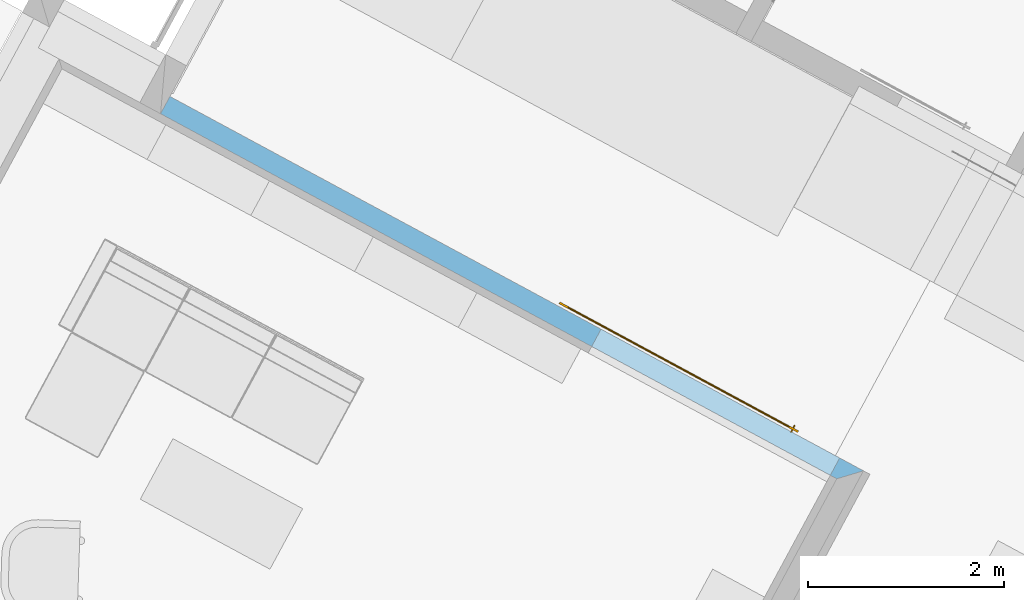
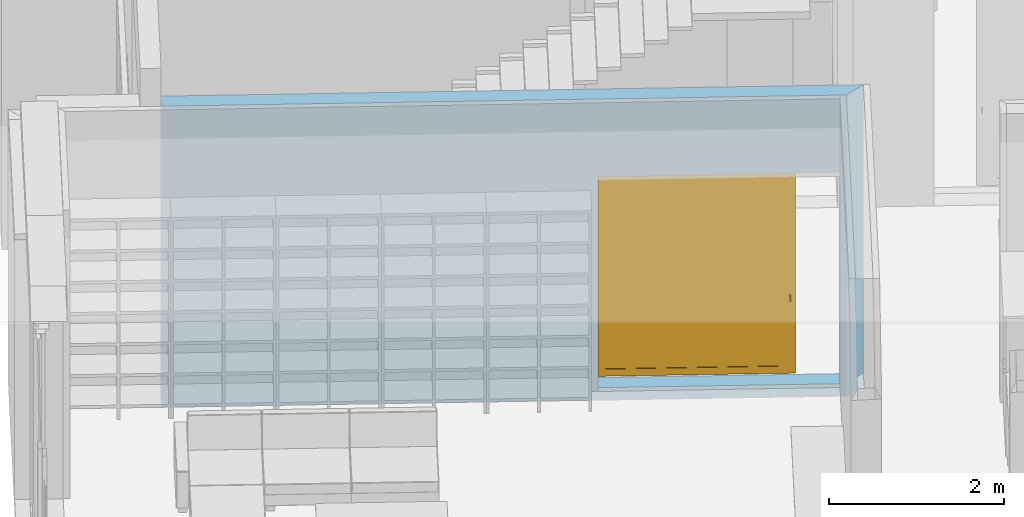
# One storey, part 5 of 36: 1 door, 1 opening, plus 1 element that does not belong to this part.
"""IFC2X3 building model written with IfcOpenShell, lengths in metres."""

from ifc_helpers import new_model, entity, si_unit, converted_unit, derived_unit, money_unit, direction, frame, origin_with_axes, origin_2d_with_axis, place, context, subcontext, project, spatial, polyline, rectangle, outline, extrude, faceted_brep, material, layer, layer_set, layer_usage, type_object, element, fill, save


model = new_model("IFC2X3")

# Units and contexts
model_context = context("Model", 3, precision=1e-05, world=origin_with_axes(), true_north=direction((0.0, 1.0)))
body_context = subcontext(model_context, "Body", "Model", "MODEL_VIEW")
ifc_project = project(units=[si_unit("LENGTHUNIT", "METRE"), si_unit("AREAUNIT", "SQUARE_METRE"), si_unit("VOLUMEUNIT", "CUBIC_METRE"), converted_unit("PLANEANGLEUNIT", "DEGREE", entity("IfcPlaneAngleMeasure", 0.0174532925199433), si_unit("PLANEANGLEUNIT", "RADIAN"), dimensions=[0, 0, 0, 0, 0, 0, 0]), money_unit("EUR"), converted_unit("TIMEUNIT", "Year", entity("IfcTimeMeasure", 31556926.0), si_unit("TIMEUNIT", "SECOND"), dimensions=[0, 0, 1, 0, 0, 0, 0]), si_unit("MASSUNIT", "GRAM", prefix="KILO"), si_unit("THERMODYNAMICTEMPERATUREUNIT", "DEGREE_CELSIUS"), si_unit("LUMINOUSINTENSITYUNIT", "LUMEN"), si_unit("ENERGYUNIT", "JOULE", prefix="MEGA"), derived_unit("THERMALCONDUCTANCEUNIT", [(si_unit("POWERUNIT", "WATT"), 1), (si_unit("LENGTHUNIT", "METRE"), -1), (si_unit("THERMODYNAMICTEMPERATUREUNIT", "KELVIN"), -1)]), derived_unit("SPECIFICHEATCAPACITYUNIT", [(si_unit("ENERGYUNIT", "JOULE"), 1), (si_unit("MASSUNIT", "GRAM", prefix="KILO"), -1), (si_unit("THERMODYNAMICTEMPERATUREUNIT", "KELVIN"), -1)]), derived_unit("MASSDENSITYUNIT", [(si_unit("MASSUNIT", "GRAM", prefix="KILO"), 1), (si_unit("VOLUMEUNIT", "CUBIC_METRE"), -1)])], contexts=[model_context])

# Site, building, storey
site_placement = place(None, frame((-3.949935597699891, 1.740105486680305, 0.0), z_axis=(0.0, 0.0, 1.0), x_axis=(0.8799804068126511, -0.475009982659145, 0.0)))
site = spatial("IfcSite", under=ifc_project, at=site_placement, Name="Gelände", CompositionType="ELEMENT")
building_placement = place(site_placement, origin_with_axes())
building = spatial("IfcBuilding", under=site, at=building_placement, Name="Gebäude", CompositionType="ELEMENT")
storey_placement = place(building_placement, origin_with_axes())
storey = spatial("IfcBuildingStorey", under=building, at=storey_placement, Name="Erdgeschoss", CompositionType="ELEMENT", Elevation=0.0)

# Wall, opening, door
ifc_material = material(Name="_SIWH - Beton, Stahlbeton")
ifc_layer = layer(ifc_material, 0.2, ventilated="UNKNOWN")
ifc_layer_set = layer_set([ifc_layer], Name="_SIWH - WI | Stb. 20 | 20cm")
ifc_layer_usage = layer_usage(ifc_layer_set, "AXIS2", "POSITIVE", 0.0)
wall_type = type_object("IfcWallType", Name="_SIWH - WI | Stb. 20 | 20cm 200", PredefinedType="NOTDEFINED")
wall_placement = place(storey_placement, frame((5.597481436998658, 7.153034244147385, -0.18), z_axis=(0.0, 0.0, 1.0), x_axis=(0.9999999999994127, 1.083822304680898e-06, 0.0)))
wall = element("IfcWallStandardCase", 1, at=wall_placement, inside=storey, type_object=wall_type, material=ifc_layer_usage, Name="I-Wand007", ObjectType="NOTDEFINED", context=body_context, shape_type="SweptSolid", body=[
    extrude(outline(polyline([(0.0, 0.0), (7.82170257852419, 0.0), (8.02170279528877, 0.2000000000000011), (0.0, 0.2000000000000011), (0.0, 0.0)])), origin_with_axes(), (0.0, 0.0, 1.0), 4.200000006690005),
])
opening_placement = place(wall_placement, frame((6.366702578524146, 0.0, 0.18), z_axis=(0.0, 0.0, 1.0), x_axis=(1.0, 0.0, 0.0)))
opening = element("IfcOpeningElement", 2, at=opening_placement, cuts=wall, Name="I-Wand059", context=body_context, shape_type="SweptSolid", body=[
    extrude(rectangle(XDim=2.759999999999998, YDim=2.94, at=origin_2d_with_axis()), frame((-2.167607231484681e-07, -0.1999999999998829, 1.47), z_axis=(1.083822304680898e-06, 0.9999999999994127, 0.0), x_axis=(0.9999999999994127, -1.083822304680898e-06, 0.0)), (0.0, 0.0, 1.0), 0.65),
])
door_style = type_object("IfcDoorStyle", Name="Schiebetür 02 1-Fl 26", ConstructionType="NOTDEFINED", OperationType="SLIDING_TO_RIGHT", ParameterTakesPrecedence=False, Sizeable=False)
door_placement = place(opening_placement, frame((-1.379999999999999, 0.0, 0.0), z_axis=(0.0, 0.0, 1.0), x_axis=(1.0, 0.0, 0.0)))
door = element("IfcDoor", 3, at=door_placement, inside=storey, type_object=door_style, Name="I-Wand059", ObjectType="DOOR", OverallHeight=2.94, OverallWidth=2.76, context=body_context, shape_type="Brep", body=[
    faceted_brep([(-0.4999497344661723, 0.2449951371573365, 0.09999999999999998), (-0.3999497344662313, 0.2449950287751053, 0.09999999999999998), (-0.3999497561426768, 0.2249950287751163, 0.09999999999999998), (-0.4999497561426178, 0.2249951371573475, 0.09999999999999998), (-0.4999497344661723, 0.2449951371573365, 2.8399), (-0.3999497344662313, 0.2449950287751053, 2.8399), (-0.3999497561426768, 0.2249950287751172, 2.8399), (-0.4999497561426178, 0.2249951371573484, 2.8399)], [[[0, 1, 2, 3]], [[0, 4, 5, 1]], [[1, 5, 6, 2]], [[3, 2, 6, 7]], [[4, 0, 3, 7]], [[5, 4, 7, 6]]]),
    faceted_brep([(2.259950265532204, 0.2449921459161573, 2.8399), (2.159950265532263, 0.2449922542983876, 2.8399), (2.159950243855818, 0.2249922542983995, 2.8399), (2.259950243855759, 0.2249921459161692, 2.8399), (2.259950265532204, 0.2449921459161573, 0.09999999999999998), (2.159950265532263, 0.2449922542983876, 0.09999999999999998), (2.159950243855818, 0.2249922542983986, 0.09999999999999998), (2.259950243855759, 0.2249921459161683, 0.09999999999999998)], [[[0, 1, 2, 3]], [[0, 4, 5, 1]], [[1, 5, 6, 2]], [[3, 2, 6, 7]], [[4, 0, 3, 7]], [[5, 4, 7, 6]]]),
    faceted_brep([(2.259950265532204, 0.2449921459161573, 0.0), (2.259950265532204, 0.2449921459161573, 0.09999999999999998), (2.259950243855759, 0.2249921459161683, 0.09999999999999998), (2.259950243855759, 0.2249921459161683, 0.0), (-0.4999497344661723, 0.2449951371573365, 0.0), (-0.4999497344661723, 0.2449951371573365, 0.09999999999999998), (-0.3999497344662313, 0.2449950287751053, 0.09999999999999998), (2.159950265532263, 0.2449922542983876, 0.09999999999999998), (2.159950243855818, 0.2249922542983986, 0.09999999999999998), (-0.3999497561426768, 0.2249950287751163, 0.09999999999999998), (-0.4999497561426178, 0.2249951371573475, 0.09999999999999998), (-0.4999497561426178, 0.2249951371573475, 0.0)], [[[0, 1, 2, 3]], [[0, 4, 5, 6, 7, 1]], [[1, 7, 8, 2]], [[3, 2, 8, 9, 10, 11]], [[4, 0, 3, 11]], [[5, 4, 11, 10]], [[6, 5, 10, 9]], [[7, 6, 9, 8]]]),
    faceted_brep([(-0.4999497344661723, 0.2449951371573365, 2.9399), (-0.4999497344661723, 0.2449951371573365, 2.8399), (-0.4999497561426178, 0.2249951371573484, 2.8399), (-0.4999497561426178, 0.2249951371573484, 2.9399), (2.259950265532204, 0.2449921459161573, 2.9399), (2.259950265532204, 0.2449921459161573, 2.8399), (2.159950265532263, 0.2449922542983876, 2.8399), (-0.3999497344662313, 0.2449950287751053, 2.8399), (-0.3999497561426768, 0.2249950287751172, 2.8399), (2.159950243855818, 0.2249922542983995, 2.8399), (2.259950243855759, 0.2249921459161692, 2.8399), (2.259950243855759, 0.2249921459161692, 2.9399)], [[[0, 1, 2, 3]], [[0, 4, 5, 6, 7, 1]], [[1, 7, 8, 2]], [[3, 2, 8, 9, 10, 11]], [[4, 0, 3, 11]], [[5, 4, 11, 10]], [[6, 5, 10, 9]], [[7, 6, 9, 8]]]),
    faceted_brep([(-0.399949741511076, 0.2384950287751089, 0.09999999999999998), (2.159950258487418, 0.2384922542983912, 0.09999999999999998), (2.159950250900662, 0.231492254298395, 0.09999999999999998), (-0.3999497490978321, 0.2314950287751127, 0.09999999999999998), (-0.399949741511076, 0.2384950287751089, 2.8399), (2.159950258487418, 0.2384922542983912, 2.8399), (2.159950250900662, 0.2314922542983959, 2.8399), (-0.3999497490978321, 0.2314950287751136, 2.8399)], [[[0, 1, 2, 3]], [[0, 4, 5, 1]], [[1, 5, 6, 2]], [[3, 2, 6, 7]], [[4, 0, 3, 7]], [[5, 4, 7, 6]]]),
    faceted_brep([(2.192950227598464, 0.209992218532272, 1.085980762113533), (2.193888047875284, 0.2082422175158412, 1.089011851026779), (2.193888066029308, 0.2249922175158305, 1.0935), (2.192950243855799, 0.2249922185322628, 1.09), (2.19295021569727, 0.1990114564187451, 1.075), (2.193888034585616, 0.1959803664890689, 1.07675), (2.196450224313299, 0.2069611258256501, 1.091230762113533), (2.196450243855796, 0.2249922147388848, 1.096062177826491), (2.199950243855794, 0.2249922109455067, 1.097), (2.203450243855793, 0.2249922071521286, 1.096062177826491), (2.206012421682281, 0.2249922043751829, 1.0935), (2.206950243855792, 0.2249922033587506, 1.09), (2.206012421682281, 0.2249922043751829, 1.0865), (2.203450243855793, 0.2249922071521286, 1.083937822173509), (2.199950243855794, 0.2249922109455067, 1.083), (2.196450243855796, 0.2249922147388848, 1.083937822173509), (2.193888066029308, 0.2249922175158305, 1.0865), (2.193888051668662, 0.2117422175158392, 1.082949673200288), (2.192950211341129, 0.1949922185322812, 1.06), (2.19388802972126, 0.1914922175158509, 1.06), (2.1964502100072, 0.1937614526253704, 1.078031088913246), (2.19388804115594, 0.2020425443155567, 1.07325), (2.199950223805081, 0.2064922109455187, 1.092042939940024), (2.203450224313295, 0.206961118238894, 1.091230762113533), (2.206012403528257, 0.2082422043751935, 1.089011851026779), (2.206950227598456, 0.2099922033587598, 1.085980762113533), (2.206012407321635, 0.2117422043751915, 1.082949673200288), (2.20345023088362, 0.2130232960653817, 1.080730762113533), (2.199950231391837, 0.213492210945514, 1.079918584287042), (2.196450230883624, 0.2130233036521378, 1.080730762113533), (2.193888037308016, 0.198492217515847, 1.06), (2.196450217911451, 0.20105439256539, 1.06), (2.19995021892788, 0.2019922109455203, 1.06), (2.203450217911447, 0.2010543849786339, 1.06), (2.206012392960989, 0.1984922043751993, 1.06), (2.206950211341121, 0.194992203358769, 1.06), (2.206012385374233, 0.1914922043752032, 1.06), (2.2034502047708, 0.1889300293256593, 1.06), (2.199950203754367, 0.187992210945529, 1.06), (2.196450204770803, 0.1889300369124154, 1.06), (2.199950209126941, 0.1929492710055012, 1.0785), (2.196450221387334, 0.2042614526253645, 1.071968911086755), (2.203450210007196, 0.1937614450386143, 1.078031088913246), (2.206012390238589, 0.1959803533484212, 1.07675), (2.206950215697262, 0.1990114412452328, 1.075), (2.206012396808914, 0.202042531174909, 1.07325), (2.20345022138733, 0.2042614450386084, 1.071968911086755), (2.199950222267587, 0.2050736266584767, 1.0715)], [[[0, 1, 2, 3]], [[4, 5, 1, 0]], [[1, 6, 7, 2]], [[3, 2, 7, 8, 9, 10, 11, 12, 13, 14, 15, 16]], [[17, 0, 3, 16]], [[18, 19, 5, 4]], [[5, 20, 6, 1]], [[21, 4, 0, 17]], [[6, 22, 8, 7]], [[22, 23, 9, 8]], [[23, 24, 10, 9]], [[24, 25, 11, 10]], [[25, 26, 12, 11]], [[26, 27, 13, 12]], [[27, 28, 14, 13]], [[28, 29, 15, 14]], [[29, 17, 16, 15]], [[18, 30, 31, 32, 33, 34, 35, 36, 37, 38, 39, 19]], [[19, 39, 20, 5]], [[30, 18, 4, 21]], [[20, 40, 22, 6]], [[41, 21, 17, 29]], [[40, 42, 23, 22]], [[42, 43, 24, 23]], [[43, 44, 25, 24]], [[44, 45, 26, 25]], [[45, 46, 27, 26]], [[46, 47, 28, 27]], [[47, 41, 29, 28]], [[31, 30, 21, 41]], [[32, 31, 41, 47]], [[33, 32, 47, 46]], [[34, 33, 46, 45]], [[35, 34, 45, 44]], [[36, 35, 44, 43]], [[37, 36, 43, 42]], [[38, 37, 42, 40]], [[39, 38, 40, 20]]]),
    faceted_brep([(2.206950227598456, 0.2099922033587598, 1.014019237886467), (2.206012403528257, 0.2082422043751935, 1.010988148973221), (2.206012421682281, 0.2249922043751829, 1.0065), (2.206950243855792, 0.2249922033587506, 1.01), (2.206950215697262, 0.1990114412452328, 1.025), (2.206012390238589, 0.1959803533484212, 1.02325), (2.203450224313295, 0.206961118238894, 1.008769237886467), (2.203450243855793, 0.2249922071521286, 1.003937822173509), (2.199950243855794, 0.2249922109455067, 1.003), (2.196450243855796, 0.2249922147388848, 1.003937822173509), (2.193888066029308, 0.2249922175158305, 1.0065), (2.192950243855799, 0.2249922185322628, 1.01), (2.193888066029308, 0.2249922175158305, 1.0135), (2.196450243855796, 0.2249922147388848, 1.016062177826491), (2.199950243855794, 0.2249922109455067, 1.017), (2.203450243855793, 0.2249922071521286, 1.016062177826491), (2.206012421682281, 0.2249922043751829, 1.0135), (2.206012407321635, 0.2117422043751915, 1.017050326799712), (2.206950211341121, 0.194992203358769, 1.04), (2.206012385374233, 0.1914922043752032, 1.04), (2.203450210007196, 0.1937614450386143, 1.021968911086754), (2.206012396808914, 0.202042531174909, 1.02675), (2.199950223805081, 0.2064922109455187, 1.007957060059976), (2.196450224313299, 0.2069611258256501, 1.008769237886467), (2.193888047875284, 0.2082422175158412, 1.010988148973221), (2.192950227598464, 0.209992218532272, 1.014019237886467), (2.193888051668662, 0.2117422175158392, 1.017050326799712), (2.196450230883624, 0.2130233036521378, 1.019269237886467), (2.199950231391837, 0.213492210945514, 1.020081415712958), (2.20345023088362, 0.2130232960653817, 1.019269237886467), (2.206012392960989, 0.1984922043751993, 1.04), (2.203450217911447, 0.2010543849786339, 1.04), (2.19995021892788, 0.2019922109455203, 1.04), (2.196450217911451, 0.20105439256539, 1.04), (2.193888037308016, 0.198492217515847, 1.04), (2.192950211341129, 0.1949922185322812, 1.04), (2.19388802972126, 0.1914922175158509, 1.04), (2.196450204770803, 0.1889300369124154, 1.04), (2.199950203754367, 0.187992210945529, 1.04), (2.2034502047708, 0.1889300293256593, 1.04), (2.199950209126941, 0.1929492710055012, 1.0215), (2.20345022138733, 0.2042614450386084, 1.028031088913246), (2.1964502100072, 0.1937614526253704, 1.021968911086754), (2.193888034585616, 0.1959803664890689, 1.02325), (2.19295021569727, 0.1990114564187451, 1.025), (2.19388804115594, 0.2020425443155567, 1.02675), (2.196450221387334, 0.2042614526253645, 1.028031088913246), (2.199950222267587, 0.2050736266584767, 1.0285)], [[[0, 1, 2, 3]], [[4, 5, 1, 0]], [[1, 6, 7, 2]], [[3, 2, 7, 8, 9, 10, 11, 12, 13, 14, 15, 16]], [[17, 0, 3, 16]], [[18, 19, 5, 4]], [[5, 20, 6, 1]], [[21, 4, 0, 17]], [[6, 22, 8, 7]], [[22, 23, 9, 8]], [[23, 24, 10, 9]], [[24, 25, 11, 10]], [[25, 26, 12, 11]], [[26, 27, 13, 12]], [[27, 28, 14, 13]], [[28, 29, 15, 14]], [[29, 17, 16, 15]], [[18, 30, 31, 32, 33, 34, 35, 36, 37, 38, 39, 19]], [[19, 39, 20, 5]], [[30, 18, 4, 21]], [[20, 40, 22, 6]], [[41, 21, 17, 29]], [[40, 42, 23, 22]], [[42, 43, 24, 23]], [[43, 44, 25, 24]], [[44, 45, 26, 25]], [[45, 46, 27, 26]], [[46, 47, 28, 27]], [[47, 41, 29, 28]], [[31, 30, 21, 41]], [[32, 31, 41, 47]], [[33, 32, 47, 46]], [[34, 33, 46, 45]], [[35, 34, 45, 44]], [[36, 35, 44, 43]], [[37, 36, 43, 42]], [[38, 37, 42, 40]], [[39, 38, 40, 20]]]),
    faceted_brep([(2.192950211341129, 0.1949922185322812, 1.04), (2.192950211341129, 0.1949922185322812, 1.06), (2.193888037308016, 0.198492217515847, 1.06), (2.193888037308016, 0.198492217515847, 1.04), (2.19388802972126, 0.1914922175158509, 1.04), (2.19388802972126, 0.1914922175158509, 1.06), (2.196450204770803, 0.1889300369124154, 1.06), (2.199950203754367, 0.187992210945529, 1.06), (2.2034502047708, 0.1889300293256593, 1.06), (2.206012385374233, 0.1914922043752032, 1.06), (2.206950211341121, 0.194992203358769, 1.06), (2.206012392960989, 0.1984922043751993, 1.06), (2.203450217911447, 0.2010543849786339, 1.06), (2.19995021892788, 0.2019922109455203, 1.06), (2.196450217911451, 0.20105439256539, 1.06), (2.196450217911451, 0.20105439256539, 1.04), (2.19995021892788, 0.2019922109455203, 1.04), (2.203450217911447, 0.2010543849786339, 1.04), (2.206012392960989, 0.1984922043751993, 1.04), (2.206950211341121, 0.194992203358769, 1.04), (2.206012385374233, 0.1914922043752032, 1.04), (2.2034502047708, 0.1889300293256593, 1.04), (2.199950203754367, 0.187992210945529, 1.04), (2.196450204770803, 0.1889300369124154, 1.04)], [[[0, 1, 2, 3]], [[4, 5, 1, 0]], [[1, 5, 6, 7, 8, 9, 10, 11, 12, 13, 14, 2]], [[3, 2, 14, 15]], [[0, 3, 15, 16, 17, 18, 19, 20, 21, 22, 23, 4]], [[23, 6, 5, 4]], [[22, 7, 6, 23]], [[21, 8, 7, 22]], [[20, 9, 8, 21]], [[19, 10, 9, 20]], [[18, 11, 10, 19]], [[17, 12, 11, 18]], [[16, 13, 12, 17]], [[15, 14, 13, 16]]]),
    faceted_brep([(2.19295028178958, 0.2599922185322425, 1.085980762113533), (2.192950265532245, 0.2449922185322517, 1.09), (2.193888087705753, 0.2449922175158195, 1.0935), (2.193888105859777, 0.2617422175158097, 1.089011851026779), (2.193888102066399, 0.2582422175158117, 1.082949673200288), (2.193888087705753, 0.2449922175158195, 1.0865), (2.196450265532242, 0.2449922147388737, 1.083937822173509), (2.199950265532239, 0.2449922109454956, 1.083), (2.203450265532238, 0.2449922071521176, 1.083937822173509), (2.206012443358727, 0.2449922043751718, 1.0865), (2.206950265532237, 0.2449922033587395, 1.09), (2.206012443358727, 0.2449922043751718, 1.0935), (2.203450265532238, 0.2449922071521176, 1.096062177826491), (2.199950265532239, 0.2449922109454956, 1.097), (2.196450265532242, 0.2449922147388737, 1.096062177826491), (2.196450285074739, 0.2630233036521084, 1.091230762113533), (2.192950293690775, 0.2709729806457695, 1.075), (2.193888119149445, 0.2740040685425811, 1.07675), (2.196450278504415, 0.2569611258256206, 1.080730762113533), (2.193888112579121, 0.2679418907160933, 1.07325), (2.199950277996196, 0.2564922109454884, 1.079918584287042), (2.203450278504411, 0.2569611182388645, 1.080730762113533), (2.206012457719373, 0.258242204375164, 1.082949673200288), (2.206950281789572, 0.2599922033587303, 1.085980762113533), (2.206012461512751, 0.261742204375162, 1.089011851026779), (2.203450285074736, 0.2630232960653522, 1.091230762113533), (2.199950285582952, 0.2634922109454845, 1.092042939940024), (2.196450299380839, 0.2762229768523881, 1.078031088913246), (2.192950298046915, 0.2749922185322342, 1.06), (2.193888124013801, 0.2784922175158, 1.06), (2.196450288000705, 0.2657229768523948, 1.071968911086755), (2.193888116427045, 0.2714922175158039, 1.06), (2.199950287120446, 0.2649107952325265, 1.0715), (2.203450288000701, 0.2657229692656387, 1.071968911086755), (2.206012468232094, 0.2679418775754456, 1.07325), (2.206950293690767, 0.2709729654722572, 1.075), (2.206012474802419, 0.2740040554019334, 1.07675), (2.203450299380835, 0.2762229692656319, 1.078031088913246), (2.199950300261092, 0.2770351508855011, 1.0785), (2.196450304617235, 0.281054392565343, 1.06), (2.199950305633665, 0.2819922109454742, 1.06), (2.203450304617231, 0.2810543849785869, 1.06), (2.206012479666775, 0.2784922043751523, 1.06), (2.206950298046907, 0.274992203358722, 1.06), (2.206012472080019, 0.2714922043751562, 1.06), (2.203450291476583, 0.2689300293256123, 1.06), (2.199950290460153, 0.267992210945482, 1.06), (2.196450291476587, 0.2689300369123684, 1.06)], [[[0, 1, 2, 3]], [[4, 5, 1, 0]], [[1, 5, 6, 7, 8, 9, 10, 11, 12, 13, 14, 2]], [[3, 2, 14, 15]], [[16, 0, 3, 17]], [[18, 6, 5, 4]], [[19, 4, 0, 16]], [[20, 7, 6, 18]], [[21, 8, 7, 20]], [[22, 9, 8, 21]], [[23, 10, 9, 22]], [[24, 11, 10, 23]], [[25, 12, 11, 24]], [[26, 13, 12, 25]], [[15, 14, 13, 26]], [[17, 3, 15, 27]], [[28, 16, 17, 29]], [[30, 18, 4, 19]], [[31, 19, 16, 28]], [[32, 20, 18, 30]], [[33, 21, 20, 32]], [[34, 22, 21, 33]], [[35, 23, 22, 34]], [[36, 24, 23, 35]], [[37, 25, 24, 36]], [[38, 26, 25, 37]], [[27, 15, 26, 38]], [[29, 17, 27, 39]], [[28, 29, 39, 40, 41, 42, 43, 44, 45, 46, 47, 31]], [[47, 30, 19, 31]], [[46, 32, 30, 47]], [[45, 33, 32, 46]], [[44, 34, 33, 45]], [[43, 35, 34, 44]], [[42, 36, 35, 43]], [[41, 37, 36, 42]], [[40, 38, 37, 41]], [[39, 27, 38, 40]]]),
    faceted_brep([(2.206950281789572, 0.2599922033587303, 1.014019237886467), (2.206950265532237, 0.2449922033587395, 1.01), (2.206012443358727, 0.2449922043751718, 1.0065), (2.206012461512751, 0.261742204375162, 1.010988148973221), (2.206012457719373, 0.258242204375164, 1.017050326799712), (2.206012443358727, 0.2449922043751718, 1.0135), (2.203450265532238, 0.2449922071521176, 1.016062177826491), (2.199950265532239, 0.2449922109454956, 1.017), (2.196450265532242, 0.2449922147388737, 1.016062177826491), (2.193888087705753, 0.2449922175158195, 1.0135), (2.192950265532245, 0.2449922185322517, 1.01), (2.193888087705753, 0.2449922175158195, 1.0065), (2.196450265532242, 0.2449922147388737, 1.003937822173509), (2.199950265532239, 0.2449922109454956, 1.003), (2.203450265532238, 0.2449922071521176, 1.003937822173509), (2.203450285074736, 0.2630232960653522, 1.008769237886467), (2.206950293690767, 0.2709729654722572, 1.025), (2.206012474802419, 0.2740040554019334, 1.02325), (2.203450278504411, 0.2569611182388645, 1.019269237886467), (2.206012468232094, 0.2679418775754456, 1.02675), (2.199950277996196, 0.2564922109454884, 1.020081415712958), (2.196450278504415, 0.2569611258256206, 1.019269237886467), (2.193888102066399, 0.2582422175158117, 1.017050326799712), (2.19295028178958, 0.2599922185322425, 1.014019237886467), (2.193888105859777, 0.2617422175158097, 1.010988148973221), (2.196450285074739, 0.2630233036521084, 1.008769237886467), (2.199950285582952, 0.2634922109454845, 1.007957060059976), (2.203450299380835, 0.2762229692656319, 1.021968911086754), (2.206950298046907, 0.274992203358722, 1.04), (2.206012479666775, 0.2784922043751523, 1.04), (2.203450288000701, 0.2657229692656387, 1.028031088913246), (2.206012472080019, 0.2714922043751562, 1.04), (2.199950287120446, 0.2649107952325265, 1.0285), (2.196450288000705, 0.2657229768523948, 1.028031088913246), (2.193888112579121, 0.2679418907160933, 1.02675), (2.192950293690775, 0.2709729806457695, 1.025), (2.193888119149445, 0.2740040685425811, 1.02325), (2.196450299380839, 0.2762229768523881, 1.021968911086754), (2.199950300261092, 0.2770351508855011, 1.0215), (2.203450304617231, 0.2810543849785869, 1.04), (2.199950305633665, 0.2819922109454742, 1.04), (2.196450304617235, 0.281054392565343, 1.04), (2.193888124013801, 0.2784922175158, 1.04), (2.192950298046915, 0.2749922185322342, 1.04), (2.193888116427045, 0.2714922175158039, 1.04), (2.196450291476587, 0.2689300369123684, 1.04), (2.199950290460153, 0.267992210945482, 1.04), (2.203450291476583, 0.2689300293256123, 1.04)], [[[0, 1, 2, 3]], [[4, 5, 1, 0]], [[1, 5, 6, 7, 8, 9, 10, 11, 12, 13, 14, 2]], [[3, 2, 14, 15]], [[16, 0, 3, 17]], [[18, 6, 5, 4]], [[19, 4, 0, 16]], [[20, 7, 6, 18]], [[21, 8, 7, 20]], [[22, 9, 8, 21]], [[23, 10, 9, 22]], [[24, 11, 10, 23]], [[25, 12, 11, 24]], [[26, 13, 12, 25]], [[15, 14, 13, 26]], [[17, 3, 15, 27]], [[28, 16, 17, 29]], [[30, 18, 4, 19]], [[31, 19, 16, 28]], [[32, 20, 18, 30]], [[33, 21, 20, 32]], [[34, 22, 21, 33]], [[35, 23, 22, 34]], [[36, 24, 23, 35]], [[37, 25, 24, 36]], [[38, 26, 25, 37]], [[27, 15, 26, 38]], [[29, 17, 27, 39]], [[28, 29, 39, 40, 41, 42, 43, 44, 45, 46, 47, 31]], [[47, 30, 19, 31]], [[46, 32, 30, 47]], [[45, 33, 32, 46]], [[44, 34, 33, 45]], [[43, 35, 34, 44]], [[42, 36, 35, 43]], [[41, 37, 36, 42]], [[40, 38, 37, 41]], [[39, 27, 38, 40]]]),
    faceted_brep([(2.192950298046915, 0.2749922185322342, 1.04), (2.193888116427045, 0.2714922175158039, 1.04), (2.193888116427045, 0.2714922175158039, 1.06), (2.192950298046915, 0.2749922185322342, 1.06), (2.193888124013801, 0.2784922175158, 1.04), (2.196450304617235, 0.281054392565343, 1.04), (2.199950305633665, 0.2819922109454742, 1.04), (2.203450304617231, 0.2810543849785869, 1.04), (2.206012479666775, 0.2784922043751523, 1.04), (2.206950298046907, 0.274992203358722, 1.04), (2.206012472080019, 0.2714922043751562, 1.04), (2.203450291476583, 0.2689300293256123, 1.04), (2.199950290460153, 0.267992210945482, 1.04), (2.196450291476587, 0.2689300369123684, 1.04), (2.196450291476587, 0.2689300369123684, 1.06), (2.199950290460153, 0.267992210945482, 1.06), (2.203450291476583, 0.2689300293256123, 1.06), (2.206012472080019, 0.2714922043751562, 1.06), (2.206950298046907, 0.274992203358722, 1.06), (2.206012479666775, 0.2784922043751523, 1.06), (2.203450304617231, 0.2810543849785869, 1.06), (2.199950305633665, 0.2819922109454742, 1.06), (2.196450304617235, 0.281054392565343, 1.06), (2.193888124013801, 0.2784922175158, 1.06)], [[[0, 1, 2, 3]], [[0, 4, 5, 6, 7, 8, 9, 10, 11, 12, 13, 1]], [[1, 13, 14, 2]], [[3, 2, 14, 15, 16, 17, 18, 19, 20, 21, 22, 23]], [[4, 0, 3, 23]], [[5, 4, 23, 22]], [[6, 5, 22, 21]], [[7, 6, 21, 20]], [[8, 7, 20, 19]], [[9, 8, 19, 18]], [[10, 9, 18, 17]], [[11, 10, 17, 16]], [[12, 11, 16, 15]], [[13, 12, 15, 14]]]),
])
fill(opening, door)

save(model, "model.ifc")
